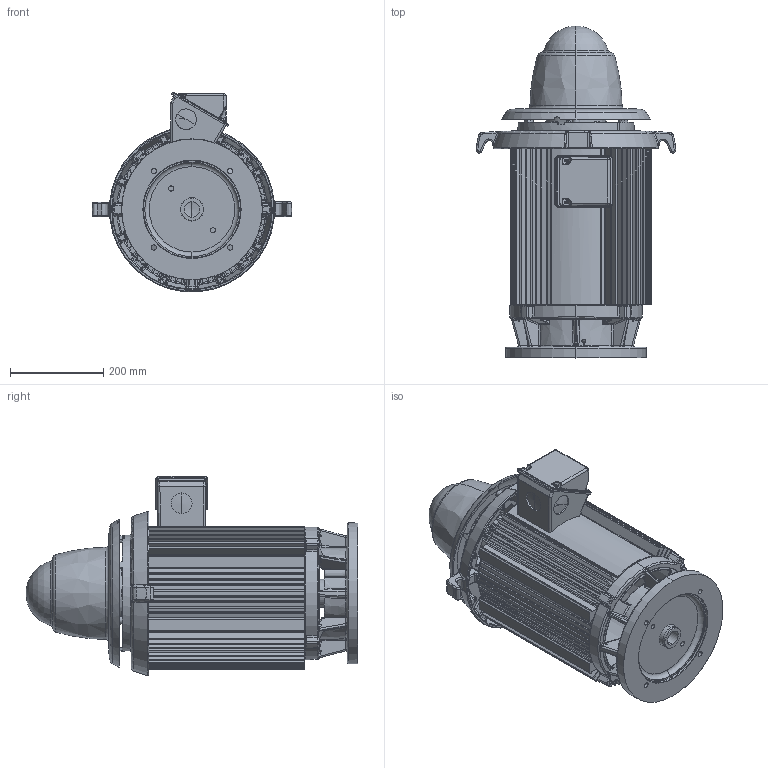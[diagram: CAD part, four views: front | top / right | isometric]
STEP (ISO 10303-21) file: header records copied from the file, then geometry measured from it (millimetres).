
FILE_DESCRIPTION((''),'2;1');
FILE_NAME('250TPH_AUSI_13625_12BD_ASM','2015-07-17T',('NMC2342'),('Nidec Motor Corporation'),'PRO/ENGINEER BY PARAMETRIC TECHNOLOGY CORPORATION, 2013150','PRO/ENGINEER BY PARAMETRIC TECHNOLOGY CORPORATION, 2013150','');
FILE_SCHEMA(('CONFIG_CONTROL_DESIGN'));
Length unit declared in the file: inch
Products named in the file (9): 0380258_AF0; 1001048; 0396184; 0116910; SHAFT; 0396188-CAP; 0364229-OBB; 0364236; 250TPH_AUSI_13625_12BD_ASM
Assembly tree (8 placements, depth 2):
  250TPH_AUSI_13625_12BD_ASM
    0380258_AF0
    1001048
    0396184
    0116910
    SHAFT
    0396188-CAP
    0364229-OBB
    0364236
Bounding box: 428.26 x 712.67 x 428.21 mm (x, y, z)
Volume: 7712132.5 mm3; surface area: 2566389.4 mm2
Topology: 10 solids, 10 shells, 3220 faces, 7778 edges, 4535 vertices
Faces by surface type: bspline 1058, cylinder 804, plane 612, torus 351, cone 273, sphere 120, extrusion 2
Entity records: 140503 total; most frequent: CARTESIAN_POINT 74036, ORIENTED_EDGE 15448, DIRECTION 11853, EDGE_CURVE 7724, AXIS2_PLACEMENT_3D 4961, VERTEX_POINT 4535, EDGE_LOOP 3347, FACE_OUTER_BOUND 3220
